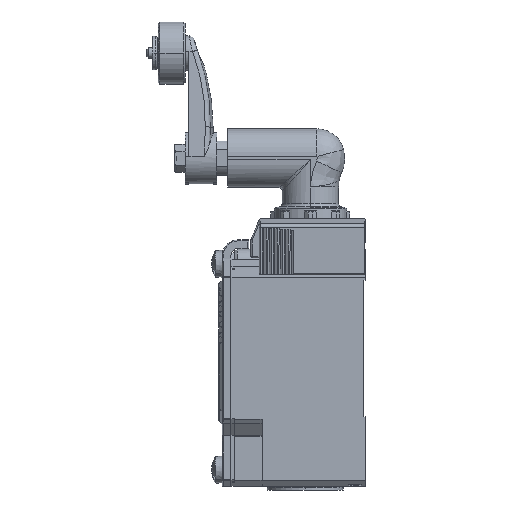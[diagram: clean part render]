
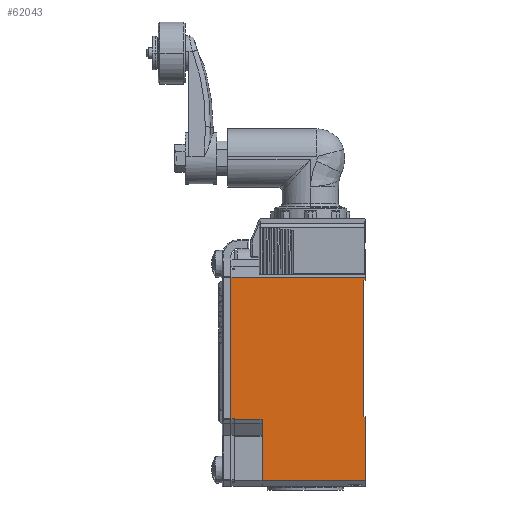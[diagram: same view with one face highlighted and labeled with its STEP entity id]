
A CAD part, left-side view. The second image highlights one B-rep face of the part: STEP entity #62043.
In plain terms, the highlighted planar face has unit normal (-1, 0, 0).
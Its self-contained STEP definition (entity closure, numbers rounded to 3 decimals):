
#16684=DIRECTION('',(0.,0.,1.));
#16685=VECTOR('',#16684,0.85);
#16686=CARTESIAN_POINT('',(-21.,0.,-13.2));
#16687=LINE('',#16686,#16685);
#16721=DIRECTION('',(0.,0.,1.));
#16722=VECTOR('',#16721,41.037);
#16723=CARTESIAN_POINT('',(-21.,39.,-53.437));
#16724=LINE('',#16723,#16722);
#16725=DIRECTION('',(0.,1.,0.));
#16726=VECTOR('',#16725,1.);
#16727=CARTESIAN_POINT('',(-21.,38.,-12.4));
#16728=LINE('',#16727,#16726);
#16729=DIRECTION('',(0.,1.,0.));
#16730=VECTOR('',#16729,0.5);
#16731=CARTESIAN_POINT('',(-21.,0.,-13.2));
#16732=LINE('',#16731,#16730);
#16733=DIRECTION('',(0.,0.,1.));
#16734=VECTOR('',#16733,39.628);
#16735=CARTESIAN_POINT('',(-21.,0.5,-52.828));
#16736=LINE('',#16735,#16734);
#16737=DIRECTION('',(0.,1.,0.));
#16738=VECTOR('',#16737,0.5);
#16739=CARTESIAN_POINT('',(-21.,0.,-52.828));
#16740=LINE('',#16739,#16738);
#16741=DIRECTION('',(0.,-1.,0.));
#16742=VECTOR('',#16741,30.);
#16743=CARTESIAN_POINT('',(-21.,30.,-71.362));
#16744=LINE('',#16743,#16742);
#16745=DIRECTION('',(0.,1.,0.));
#16746=VECTOR('',#16745,1.);
#16747=CARTESIAN_POINT('',(-21.,38.,-53.437));
#16748=LINE('',#16747,#16746);
#16975=DIRECTION('',(0.,0.,-1.));
#16976=VECTOR('',#16975,0.07);
#16977=CARTESIAN_POINT('',(-21.,38.,-53.437));
#16978=LINE('',#16977,#16976);
#17043=DIRECTION('',(0.,1.,0.));
#17044=VECTOR('',#17043,8.);
#17045=CARTESIAN_POINT('',(-21.,30.,-53.507));
#17046=LINE('',#17045,#17044);
#17071=DIRECTION('',(0.,0.,1.));
#17072=VECTOR('',#17071,17.855);
#17073=CARTESIAN_POINT('',(-21.,30.,-71.362));
#17074=LINE('',#17073,#17072);
#17521=DIRECTION('',(0.,0.,1.));
#17522=VECTOR('',#17521,18.534);
#17523=CARTESIAN_POINT('',(-21.,0.,-71.362));
#17524=LINE('',#17523,#17522);
#20171=DIRECTION('',(0.,1.,0.));
#20172=VECTOR('',#20171,38.);
#20173=CARTESIAN_POINT('',(-21.,0.,-12.35));
#20174=LINE('',#20173,#20172);
#27851=DIRECTION('',(0.,0.,-1.));
#27852=VECTOR('',#27851,0.05);
#27853=CARTESIAN_POINT('',(-21.,38.,-12.35));
#27854=LINE('',#27853,#27852);
#36307=CARTESIAN_POINT('',(-21.,0.,-71.362));
#36309=VERTEX_POINT('',#36307);
#36312=CARTESIAN_POINT('',(-21.,30.,-71.362));
#36314=VERTEX_POINT('',#36312);
#36391=CARTESIAN_POINT('',(-21.,0.5,-52.828));
#36392=CARTESIAN_POINT('',(-21.,0.5,-13.2));
#36393=VERTEX_POINT('',#36391);
#36394=VERTEX_POINT('',#36392);
#36407=CARTESIAN_POINT('',(-21.,0.,-13.2));
#36409=VERTEX_POINT('',#36407);
#37191=CARTESIAN_POINT('',(-21.,38.,-53.507));
#37193=VERTEX_POINT('',#37191);
#37207=CARTESIAN_POINT('',(-21.,30.,-53.507));
#37209=VERTEX_POINT('',#37207);
#37247=CARTESIAN_POINT('',(-21.,0.,-12.35));
#37248=CARTESIAN_POINT('',(-21.,38.,-12.35));
#37249=VERTEX_POINT('',#37247);
#37250=VERTEX_POINT('',#37248);
#37351=CARTESIAN_POINT('',(-21.,0.,-52.828));
#37352=VERTEX_POINT('',#37351);
#38598=CARTESIAN_POINT('',(-21.,38.,-12.4));
#38600=VERTEX_POINT('',#38598);
#38609=CARTESIAN_POINT('',(-21.,38.,-53.437));
#38610=VERTEX_POINT('',#38609);
#39413=CARTESIAN_POINT('',(-21.,39.,-53.437));
#39414=CARTESIAN_POINT('',(-21.,39.,-12.4));
#39415=VERTEX_POINT('',#39413);
#39416=VERTEX_POINT('',#39414);
#62010=CARTESIAN_POINT('',(-21.,0.,-73.));
#62011=DIRECTION('',(-1.,0.,0.));
#62012=DIRECTION('',(0.,0.,1.));
#62013=AXIS2_PLACEMENT_3D('',#62010,#62011,#62012);
#62014=PLANE('',#62013);
#62016=ORIENTED_EDGE('',*,*,#62015,.T.);
#62018=ORIENTED_EDGE('',*,*,#62017,.F.);
#62020=ORIENTED_EDGE('',*,*,#62019,.F.);
#62022=ORIENTED_EDGE('',*,*,#62021,.F.);
#62023=ORIENTED_EDGE('',*,*,#61988,.F.);
#62024=ORIENTED_EDGE('',*,*,#60282,.T.);
#62026=ORIENTED_EDGE('',*,*,#62025,.F.);
#62028=ORIENTED_EDGE('',*,*,#62027,.F.);
#62030=ORIENTED_EDGE('',*,*,#62029,.F.);
#62032=ORIENTED_EDGE('',*,*,#62031,.F.);
#62034=ORIENTED_EDGE('',*,*,#62033,.T.);
#62036=ORIENTED_EDGE('',*,*,#62035,.T.);
#62038=ORIENTED_EDGE('',*,*,#62037,.F.);
#62040=ORIENTED_EDGE('',*,*,#62039,.T.);
#62041=EDGE_LOOP('',(#62016,#62018,#62020,#62022,#62023,#62024,#62026,#62028,
#62030,#62032,#62034,#62036,#62038,#62040));
#62042=FACE_OUTER_BOUND('',#62041,.F.);
#60282=EDGE_CURVE('',#36409,#36394,#16732,.T.);
#61988=EDGE_CURVE('',#36409,#37249,#16687,.T.);
#62015=EDGE_CURVE('',#39415,#39416,#16724,.T.);
#62017=EDGE_CURVE('',#38600,#39416,#16728,.T.);
#62019=EDGE_CURVE('',#37250,#38600,#27854,.T.);
#62021=EDGE_CURVE('',#37249,#37250,#20174,.T.);
#62025=EDGE_CURVE('',#36393,#36394,#16736,.T.);
#62027=EDGE_CURVE('',#37352,#36393,#16740,.T.);
#62029=EDGE_CURVE('',#36309,#37352,#17524,.T.);
#62031=EDGE_CURVE('',#36314,#36309,#16744,.T.);
#62033=EDGE_CURVE('',#36314,#37209,#17074,.T.);
#62035=EDGE_CURVE('',#37209,#37193,#17046,.T.);
#62037=EDGE_CURVE('',#38610,#37193,#16978,.T.);
#62039=EDGE_CURVE('',#38610,#39415,#16748,.T.);
#62043=ADVANCED_FACE('',(#62042),#62014,.T.);
